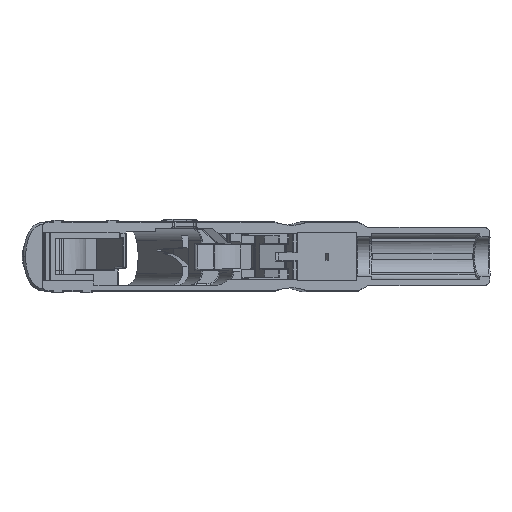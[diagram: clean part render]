
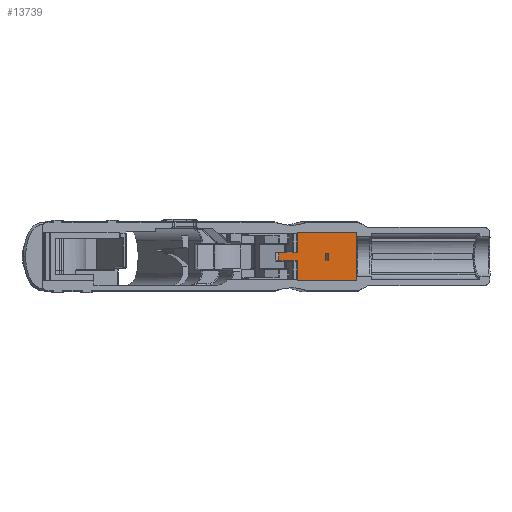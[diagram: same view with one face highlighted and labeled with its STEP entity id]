
A CAD part, top view. The second image highlights one B-rep face of the part: STEP entity #13739.
In plain terms, the highlighted planar face has unit normal (0, 0, 1).
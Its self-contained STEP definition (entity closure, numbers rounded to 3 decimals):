
#46=FACE_BOUND('',#1960,.T.);
#671=CIRCLE('',#14596,0.5);
#672=CIRCLE('',#14597,0.5);
#1183=FACE_OUTER_BOUND('',#1959,.T.);
#1959=EDGE_LOOP('',(#10039,#10040,#10041,#10042,#10043,#10044,#10045,#10046,
#10047,#10048));
#1960=EDGE_LOOP('',(#10049,#10050,#10051,#10052));
#2823=LINE('',#20289,#3732);
#3047=LINE('',#28510,#3956);
#3048=LINE('',#28512,#3957);
#3049=LINE('',#28516,#3958);
#3050=LINE('',#28518,#3959);
#3051=LINE('',#28520,#3960);
#3052=LINE('',#28524,#3961);
#3053=LINE('',#28525,#3962);
#3054=LINE('',#28528,#3963);
#3055=LINE('',#28530,#3964);
#3056=LINE('',#28532,#3965);
#3057=LINE('',#28533,#3966);
#3732=VECTOR('',#15642,10.);
#3956=VECTOR('',#16228,10.);
#3957=VECTOR('',#16229,10.);
#3958=VECTOR('',#16232,1000.);
#3959=VECTOR('',#16233,10.);
#3960=VECTOR('',#16234,1000.);
#3961=VECTOR('',#16237,10.);
#3962=VECTOR('',#16238,10.);
#3963=VECTOR('',#16239,10.);
#3964=VECTOR('',#16240,10.);
#3965=VECTOR('',#16241,10.);
#3966=VECTOR('',#16242,10.);
#5394=VERTEX_POINT('',#20287);
#5395=VERTEX_POINT('',#20288);
#5807=VERTEX_POINT('',#28509);
#5808=VERTEX_POINT('',#28511);
#5809=VERTEX_POINT('',#28513);
#5810=VERTEX_POINT('',#28515);
#5811=VERTEX_POINT('',#28517);
#5812=VERTEX_POINT('',#28519);
#5813=VERTEX_POINT('',#28521);
#5814=VERTEX_POINT('',#28523);
#5815=VERTEX_POINT('',#28526);
#5816=VERTEX_POINT('',#28527);
#5817=VERTEX_POINT('',#28529);
#5818=VERTEX_POINT('',#28531);
#6854=EDGE_CURVE('',#5394,#5395,#2823,.T.);
#7415=EDGE_CURVE('',#5395,#5807,#3047,.T.);
#7416=EDGE_CURVE('',#5807,#5808,#3048,.T.);
#7417=EDGE_CURVE('',#5809,#5808,#671,.F.);
#7418=EDGE_CURVE('',#5809,#5810,#3049,.T.);
#7419=EDGE_CURVE('',#5811,#5810,#3050,.T.);
#7420=EDGE_CURVE('',#5811,#5812,#3051,.T.);
#7421=EDGE_CURVE('',#5813,#5812,#672,.F.);
#7422=EDGE_CURVE('',#5813,#5814,#3052,.T.);
#7423=EDGE_CURVE('',#5814,#5394,#3053,.T.);
#7424=EDGE_CURVE('',#5815,#5816,#3054,.T.);
#7425=EDGE_CURVE('',#5816,#5817,#3055,.T.);
#7426=EDGE_CURVE('',#5817,#5818,#3056,.T.);
#7427=EDGE_CURVE('',#5818,#5815,#3057,.T.);
#10039=ORIENTED_EDGE('',*,*,#6854,.T.);
#10040=ORIENTED_EDGE('',*,*,#7415,.T.);
#10041=ORIENTED_EDGE('',*,*,#7416,.T.);
#10042=ORIENTED_EDGE('',*,*,#7417,.F.);
#10043=ORIENTED_EDGE('',*,*,#7418,.T.);
#10044=ORIENTED_EDGE('',*,*,#7419,.F.);
#10045=ORIENTED_EDGE('',*,*,#7420,.T.);
#10046=ORIENTED_EDGE('',*,*,#7421,.F.);
#10047=ORIENTED_EDGE('',*,*,#7422,.T.);
#10048=ORIENTED_EDGE('',*,*,#7423,.T.);
#10049=ORIENTED_EDGE('',*,*,#7424,.T.);
#10050=ORIENTED_EDGE('',*,*,#7425,.T.);
#10051=ORIENTED_EDGE('',*,*,#7426,.T.);
#10052=ORIENTED_EDGE('',*,*,#7427,.T.);
#13376=PLANE('',#14595);
#13739=ADVANCED_FACE('',(#1183,#46),#13376,.F.);
#14595=AXIS2_PLACEMENT_3D('',#28508,#16226,#16227);
#14596=AXIS2_PLACEMENT_3D('',#28514,#16230,#16231);
#14597=AXIS2_PLACEMENT_3D('',#28522,#16235,#16236);
#15642=DIRECTION('',(0.,1.,0.));
#16226=DIRECTION('center_axis',(0.,0.,-1.));
#16227=DIRECTION('ref_axis',(0.,1.,0.));
#16228=DIRECTION('',(-1.,0.,0.));
#16229=DIRECTION('',(0.,-1.,0.));
#16230=DIRECTION('center_axis',(0.,0.,-1.));
#16231=DIRECTION('ref_axis',(0.707,-0.707,0.));
#16232=DIRECTION('',(-1.,0.,0.));
#16233=DIRECTION('',(0.,1.,0.));
#16234=DIRECTION('',(1.,0.,0.));
#16235=DIRECTION('center_axis',(0.,0.,-1.));
#16236=DIRECTION('ref_axis',(0.707,0.707,0.));
#16237=DIRECTION('',(0.,-1.,0.));
#16238=DIRECTION('',(1.,0.,0.));
#16239=DIRECTION('',(-1.,0.,0.));
#16240=DIRECTION('',(0.,1.,0.));
#16241=DIRECTION('',(1.,0.,0.));
#16242=DIRECTION('',(0.,-1.,0.));
#20287=CARTESIAN_POINT('',(128.1,-9.973,-16.));
#20288=CARTESIAN_POINT('',(128.1,9.973,-16.));
#20289=CARTESIAN_POINT('',(128.1,0.,-16.));
#28508=CARTESIAN_POINT('Origin',(0.,25.,-16.));
#28509=CARTESIAN_POINT('',(103.745,9.973,-16.));
#28510=CARTESIAN_POINT('',(57.961,9.973,-16.));
#28511=CARTESIAN_POINT('',(103.745,2.1,-16.));
#28512=CARTESIAN_POINT('',(103.745,0.,-16.));
#28513=CARTESIAN_POINT('',(103.245,1.6,-16.));
#28514=CARTESIAN_POINT('Origin',(103.245,2.1,-16.));
#28515=CARTESIAN_POINT('',(95.184,1.6,-16.));
#28516=CARTESIAN_POINT('',(127.474,1.6,-16.));
#28517=CARTESIAN_POINT('',(95.184,-1.6,-16.));
#28518=CARTESIAN_POINT('',(95.184,13.3,-16.));
#28519=CARTESIAN_POINT('',(103.245,-1.6,-16.));
#28520=CARTESIAN_POINT('',(112.692,-1.6,-16.));
#28521=CARTESIAN_POINT('',(103.745,-2.1,-16.));
#28522=CARTESIAN_POINT('Origin',(103.245,-2.1,-16.));
#28523=CARTESIAN_POINT('',(103.745,-9.973,-16.));
#28524=CARTESIAN_POINT('',(103.745,0.,-16.));
#28525=CARTESIAN_POINT('',(57.961,-9.973,-16.));
#28526=CARTESIAN_POINT('',(116.445,-1.45,-16.));
#28527=CARTESIAN_POINT('',(115.445,-1.45,-16.));
#28528=CARTESIAN_POINT('',(57.146,-1.45,-16.));
#28529=CARTESIAN_POINT('',(115.445,1.45,-16.));
#28530=CARTESIAN_POINT('',(115.445,12.5,-16.));
#28531=CARTESIAN_POINT('',(116.445,1.45,-16.));
#28532=CARTESIAN_POINT('',(57.146,1.45,-16.));
#28533=CARTESIAN_POINT('',(116.445,12.5,-16.));
